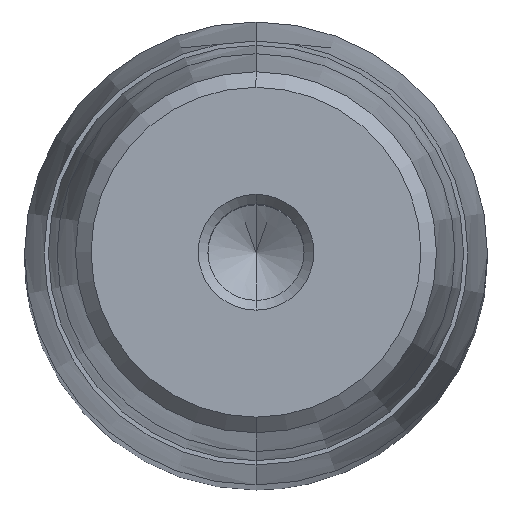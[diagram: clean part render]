
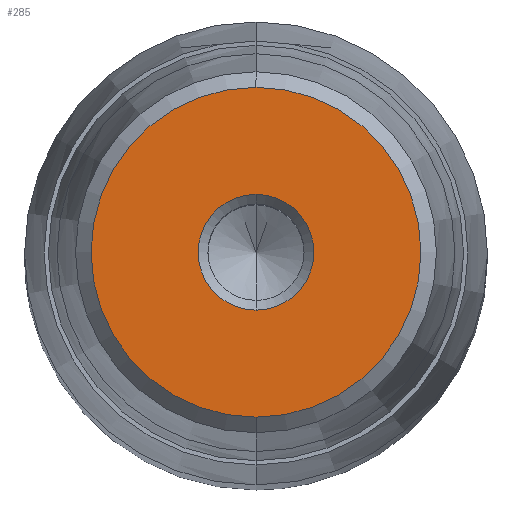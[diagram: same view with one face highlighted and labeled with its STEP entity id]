
A CAD part, top view. The second image highlights one B-rep face of the part: STEP entity #285.
In plain terms, the highlighted planar face has unit normal (0, 0, 1).
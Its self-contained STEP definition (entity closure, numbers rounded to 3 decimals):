
#164=CARTESIAN_POINT('Axis2P3D Location',(0.,0.,48.)) ;
#168=CARTESIAN_POINT('Vertex',(4.,0.,48.)) ;
#170=CARTESIAN_POINT('Vertex',(0.,-4.,48.)) ;
#173=CARTESIAN_POINT('Axis2P3D Location',(0.,0.,48.)) ;
#177=CARTESIAN_POINT('Vertex',(0.,4.,48.)) ;
#228=CARTESIAN_POINT('Axis2P3D Location',(0.,4.,48.)) ;
#233=CARTESIAN_POINT('Axis2P3D Location',(0.,0.,48.)) ;
#237=CARTESIAN_POINT('Vertex',(0.,11.4,48.)) ;
#239=CARTESIAN_POINT('Vertex',(11.4,0.,48.)) ;
#242=CARTESIAN_POINT('Axis2P3D Location',(0.,0.,48.)) ;
#246=CARTESIAN_POINT('Vertex',(-11.4,0.,48.)) ;
#249=CARTESIAN_POINT('Axis2P3D Location',(0.,0.,48.)) ;
#253=CARTESIAN_POINT('Vertex',(0.,-11.4,48.)) ;
#256=CARTESIAN_POINT('Axis2P3D Location',(0.,0.,48.)) ;
#267=CARTESIAN_POINT('Axis2P3D Location',(0.,0.,48.)) ;
#271=CARTESIAN_POINT('Vertex',(-4.,0.,48.)) ;
#274=CARTESIAN_POINT('Axis2P3D Location',(0.,0.,48.)) ;
#165=DIRECTION('Axis2P3D Direction',(-0.,0.,1.)) ;
#174=DIRECTION('Axis2P3D Direction',(-0.,0.,1.)) ;
#229=DIRECTION('Axis2P3D Direction',(0.,0.,-1.)) ;
#230=DIRECTION('Axis2P3D XDirection',(0.,1.,0.)) ;
#234=DIRECTION('Axis2P3D Direction',(0.,0.,-1.)) ;
#243=DIRECTION('Axis2P3D Direction',(0.,0.,-1.)) ;
#250=DIRECTION('Axis2P3D Direction',(0.,0.,-1.)) ;
#257=DIRECTION('Axis2P3D Direction',(0.,0.,-1.)) ;
#268=DIRECTION('Axis2P3D Direction',(0.,0.,-1.)) ;
#275=DIRECTION('Axis2P3D Direction',(0.,0.,-1.)) ;
#166=AXIS2_PLACEMENT_3D('Circle Axis2P3D',#164,#165,$) ;
#175=AXIS2_PLACEMENT_3D('Circle Axis2P3D',#173,#174,$) ;
#231=AXIS2_PLACEMENT_3D('Plane Axis2P3D',#228,#229,#230) ;
#235=AXIS2_PLACEMENT_3D('Circle Axis2P3D',#233,#234,$) ;
#244=AXIS2_PLACEMENT_3D('Circle Axis2P3D',#242,#243,$) ;
#251=AXIS2_PLACEMENT_3D('Circle Axis2P3D',#249,#250,$) ;
#258=AXIS2_PLACEMENT_3D('Circle Axis2P3D',#256,#257,$) ;
#269=AXIS2_PLACEMENT_3D('Circle Axis2P3D',#267,#268,$) ;
#276=AXIS2_PLACEMENT_3D('Circle Axis2P3D',#274,#275,$) ;
#262=ORIENTED_EDGE('',*,*,#241,.F.) ;
#263=ORIENTED_EDGE('',*,*,#248,.F.) ;
#264=ORIENTED_EDGE('',*,*,#255,.F.) ;
#265=ORIENTED_EDGE('',*,*,#260,.F.) ;
#280=ORIENTED_EDGE('',*,*,#172,.T.) ;
#281=ORIENTED_EDGE('',*,*,#273,.T.) ;
#282=ORIENTED_EDGE('',*,*,#278,.T.) ;
#283=ORIENTED_EDGE('',*,*,#179,.T.) ;
#284=FACE_BOUND('',#279,.T.) ;
#285=ADVANCED_FACE('722-32x224x257',(#266,#284),#232,.F.) ;
#167=CIRCLE('generated circle',#166,4.) ;
#176=CIRCLE('generated circle',#175,4.) ;
#236=CIRCLE('generated circle',#235,11.4) ;
#245=CIRCLE('generated circle',#244,11.4) ;
#252=CIRCLE('generated circle',#251,11.4) ;
#259=CIRCLE('generated circle',#258,11.4) ;
#270=CIRCLE('generated circle',#269,4.) ;
#277=CIRCLE('generated circle',#276,4.) ;
#172=EDGE_CURVE('',#169,#171,#167,.F.) ;
#179=EDGE_CURVE('',#178,#169,#176,.F.) ;
#241=EDGE_CURVE('',#238,#240,#236,.T.) ;
#248=EDGE_CURVE('',#247,#238,#245,.T.) ;
#255=EDGE_CURVE('',#254,#247,#252,.T.) ;
#260=EDGE_CURVE('',#240,#254,#259,.T.) ;
#273=EDGE_CURVE('',#171,#272,#270,.T.) ;
#278=EDGE_CURVE('',#272,#178,#277,.T.) ;
#261=EDGE_LOOP('',(#262,#263,#264,#265)) ;
#279=EDGE_LOOP('',(#280,#281,#282,#283)) ;
#266=FACE_OUTER_BOUND('',#261,.T.) ;
#232=PLANE('Plane',#231) ;
#169=VERTEX_POINT('',#168) ;
#171=VERTEX_POINT('',#170) ;
#178=VERTEX_POINT('',#177) ;
#238=VERTEX_POINT('',#237) ;
#240=VERTEX_POINT('',#239) ;
#247=VERTEX_POINT('',#246) ;
#254=VERTEX_POINT('',#253) ;
#272=VERTEX_POINT('',#271) ;
